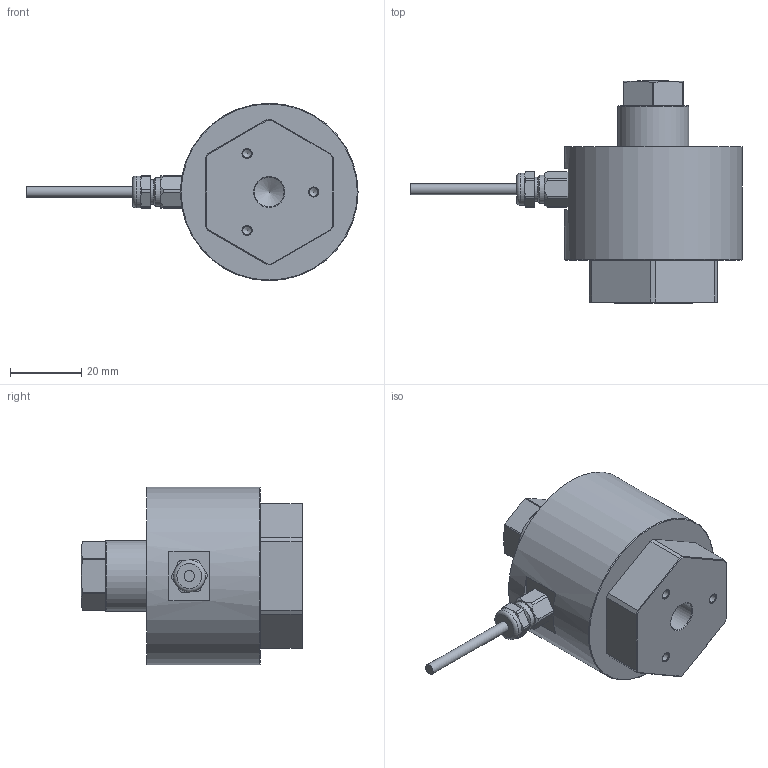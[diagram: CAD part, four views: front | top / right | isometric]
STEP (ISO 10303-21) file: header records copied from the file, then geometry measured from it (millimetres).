
FILE_DESCRIPTION(/* description */ (''),/* implementation_level */ '2;1');
FILE_NAME(/* name */ 'D:\Eigene Dateien\Test\8427\8427-6010.stp',/* time_stamp */ '2018-03-20T10:36:03+01:00',/* author */ ('lv'),/* organization */ (''),/* preprocessor_version */ 'ST-DEVELOPER v16.5',/* originating_system */ 'Autodesk Inventor 2017',/* authorisation */ '');
FILE_SCHEMA (('AUTOMOTIVE_DESIGN { 1 0 10303 214 3 1 1 }'));
Length unit declared in the file: millimetre
Products named in the file (1): 8427-5500
Bounding box: 93.5 x 62.5 x 50 mm (x, y, z)
Volume: 78113.3 mm3; surface area: 16441.7 mm2
Topology: 1 solids, 6 shells, 154 faces, 365 edges, 228 vertices
Faces by surface type: plane 80, cylinder 40, cone 25, torus 8, bspline 1
Full cylindrical faces by diameter (mm): 2.459 x3, 3 x1, 6.773 x1, 8 x1, 8.376 x2, 9 x1, 20 x1, 30 x1, 32.5 x1, 48 x1, 50 x1
Entity records: 4431 total; most frequent: CARTESIAN_POINT 880, DIRECTION 705, ORIENTED_EDGE 648, EDGE_CURVE 322, AXIS2_PLACEMENT_3D 264, VERTEX_POINT 218, EDGE_LOOP 198, LINE 177
